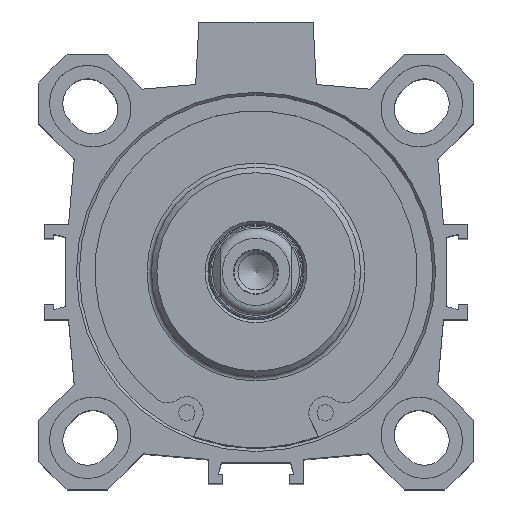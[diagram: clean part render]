
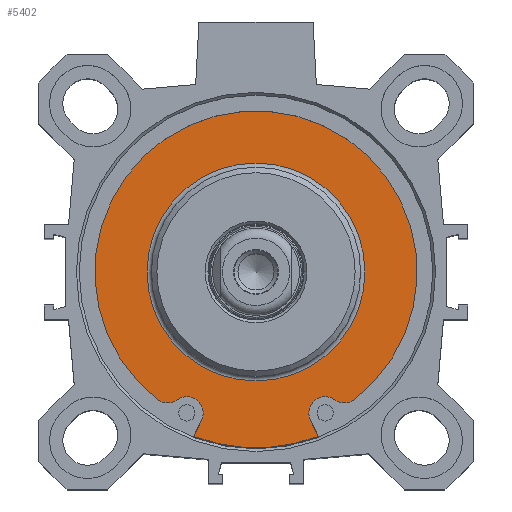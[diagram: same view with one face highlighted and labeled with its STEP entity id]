
A CAD part, top view. The second image highlights one B-rep face of the part: STEP entity #5402.
In plain terms, the highlighted planar face has unit normal (0, 0, 1).
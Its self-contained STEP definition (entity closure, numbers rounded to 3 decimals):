
#78=PLANE('',#5695);
#207=LINE('',#7258,#525);
#211=LINE('',#7270,#529);
#525=VECTOR('',#6097,1000.);
#529=VECTOR('',#6109,1000.);
#998=ORIENTED_EDGE('',*,*,#1970,.T.);
#999=ORIENTED_EDGE('',*,*,#1940,.T.);
#1000=ORIENTED_EDGE('',*,*,#1962,.F.);
#1001=ORIENTED_EDGE('',*,*,#1946,.T.);
#1002=ORIENTED_EDGE('',*,*,#1950,.T.);
#1003=ORIENTED_EDGE('',*,*,#1952,.T.);
#1004=ORIENTED_EDGE('',*,*,#1929,.T.);
#1005=ORIENTED_EDGE('',*,*,#1933,.T.);
#1006=ORIENTED_EDGE('',*,*,#1936,.T.);
#1929=EDGE_CURVE('',#2436,#2435,#2799,.T.);
#1933=EDGE_CURVE('',#2435,#2438,#2801,.T.);
#1936=EDGE_CURVE('',#2438,#2440,#2803,.T.);
#1940=EDGE_CURVE('',#2440,#2443,#207,.T.);
#1946=EDGE_CURVE('',#2448,#2447,#211,.T.);
#1950=EDGE_CURVE('',#2447,#2450,#2807,.T.);
#1952=EDGE_CURVE('',#2450,#2436,#2809,.T.);
#1962=EDGE_CURVE('',#2448,#2443,#2819,.T.);
#1970=EDGE_CURVE('',#2466,#2466,#2827,.T.);
#2435=VERTEX_POINT('',#7235);
#2436=VERTEX_POINT('',#7237);
#2438=VERTEX_POINT('',#7243);
#2440=VERTEX_POINT('',#7249);
#2443=VERTEX_POINT('',#7257);
#2447=VERTEX_POINT('',#7269);
#2448=VERTEX_POINT('',#7271);
#2450=VERTEX_POINT('',#7277);
#2466=VERTEX_POINT('',#7335);
#2799=CIRCLE('',#5639,29.65);
#2801=CIRCLE('',#5642,3.);
#2803=CIRCLE('',#5645,3.);
#2807=CIRCLE('',#5653,3.);
#2809=CIRCLE('',#5656,3.);
#2819=CIRCLE('',#5679,32.35);
#2827=CIRCLE('',#5694,20.05);
#3020=EDGE_LOOP('',(#998));
#3021=EDGE_LOOP('',(#999,#1000,#1001,#1002,#1003,#1004,#1005,#1006));
#3366=FACE_BOUND('',#3020,.T.);
#3367=FACE_BOUND('',#3021,.T.);
#5402=ADVANCED_FACE('',(#3366,#3367),#78,.T.);
#5639=AXIS2_PLACEMENT_3D('',#7236,#6075,#6076);
#5642=AXIS2_PLACEMENT_3D('',#7244,#6083,#6084);
#5645=AXIS2_PLACEMENT_3D('',#7250,#6090,#6091);
#5653=AXIS2_PLACEMENT_3D('',#7278,#6116,#6117);
#5656=AXIS2_PLACEMENT_3D('',#7281,#6122,#6123);
#5679=AXIS2_PLACEMENT_3D('',#7312,#6168,#6169);
#5694=AXIS2_PLACEMENT_3D('',#7334,#6198,#6199);
#5695=AXIS2_PLACEMENT_3D('',#7336,#6200,#6201);
#6075=DIRECTION('',(0.,0.,1.));
#6076=DIRECTION('',(-0.611,0.792,0.));
#6083=DIRECTION('',(0.,0.,1.));
#6084=DIRECTION('',(0.611,0.792,0.));
#6090=DIRECTION('',(0.,0.,-1.));
#6091=DIRECTION('',(0.907,-0.422,0.));
#6097=DIRECTION('',(-0.422,-0.907,0.));
#6109=DIRECTION('',(-0.422,0.907,0.));
#6116=DIRECTION('',(0.,0.,-1.));
#6117=DIRECTION('',(0.592,0.806,0.));
#6122=DIRECTION('',(0.,0.,1.));
#6123=DIRECTION('',(0.592,0.806,0.));
#6168=DIRECTION('',(0.,0.,-1.));
#6169=DIRECTION('',(-1.,0.,0.));
#6198=DIRECTION('',(0.,0.,-1.));
#6199=DIRECTION('',(-1.,0.,0.));
#6200=DIRECTION('',(0.,0.,1.));
#6201=DIRECTION('',(1.,0.,0.));
#7235=CARTESIAN_POINT('',(-18.117,-23.472,86.35));
#7236=CARTESIAN_POINT('',(0.,0.,86.35));
#7237=CARTESIAN_POINT('',(18.117,-23.472,86.35));
#7243=CARTESIAN_POINT('',(-14.509,-23.515,86.35));
#7244=CARTESIAN_POINT('',(-16.284,-21.097,86.35));
#7249=CARTESIAN_POINT('',(-10.014,-27.199,86.35));
#7250=CARTESIAN_POINT('',(-12.734,-25.934,86.35));
#7257=CARTESIAN_POINT('',(-11.437,-30.261,86.35));
#7258=CARTESIAN_POINT('',(-10.014,-27.199,86.35));
#7269=CARTESIAN_POINT('',(10.014,-27.199,86.35));
#7270=CARTESIAN_POINT('',(11.437,-30.261,86.35));
#7271=CARTESIAN_POINT('',(11.437,-30.261,86.35));
#7277=CARTESIAN_POINT('',(14.509,-23.515,86.35));
#7278=CARTESIAN_POINT('',(12.734,-25.934,86.35));
#7281=CARTESIAN_POINT('',(16.284,-21.097,86.35));
#7312=CARTESIAN_POINT('',(0.,0.,86.35));
#7334=CARTESIAN_POINT('',(0.,0.,86.35));
#7335=CARTESIAN_POINT('',(-20.05,0.,86.35));
#7336=CARTESIAN_POINT('',(-26.2,0.,86.35));
